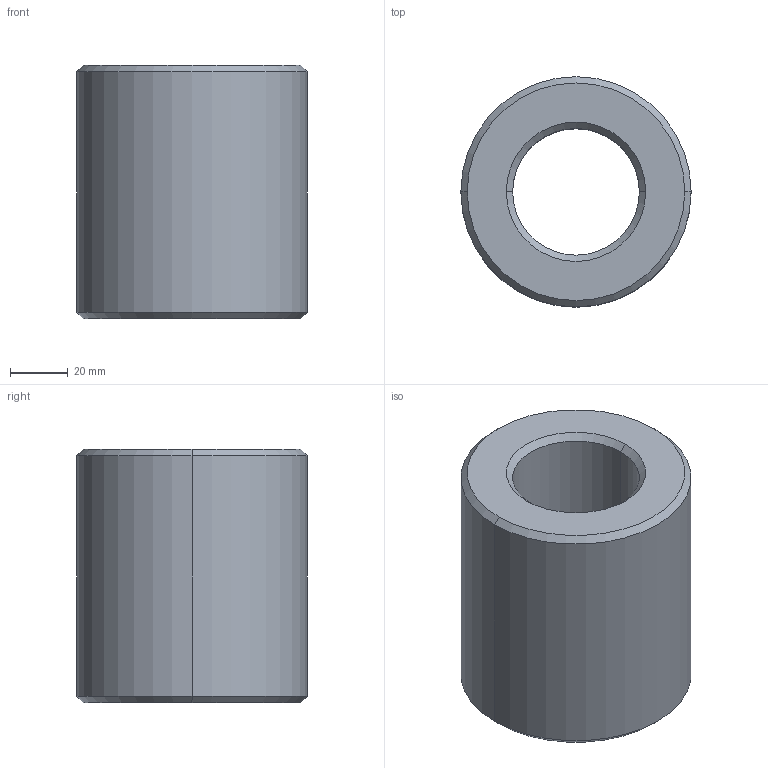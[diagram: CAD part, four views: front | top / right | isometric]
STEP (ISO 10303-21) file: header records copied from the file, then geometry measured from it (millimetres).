
FILE_DESCRIPTION (( 'STEP AP203' ), '1' );
FILE_NAME ('L1330.R44-07.step', '2024-10-24T09:29:34', ( '' ), ( '' ), 'SwSTEP 2.0', 'SolidWorks 2019', '' );
FILE_SCHEMA (( 'CONFIG_CONTROL_DESIGN' ));
Length unit declared in the file: millimetre
Products named in the file (1): L1330.R44-07
Bounding box: 80 x 80 x 88 mm (x, y, z)
Volume: 306644.1 mm3; surface area: 40289 mm2
Topology: 1 solids, 1 shells, 14 faces, 28 edges, 16 vertices
Faces by surface type: cone 8, cylinder 4, plane 2
Entity records: 445 total; most frequent: DIRECTION 74, CARTESIAN_POINT 59, ORIENTED_EDGE 56, AXIS2_PLACEMENT_3D 31, EDGE_CURVE 28, VERTEX_POINT 16, EDGE_LOOP 16, CIRCLE 16
